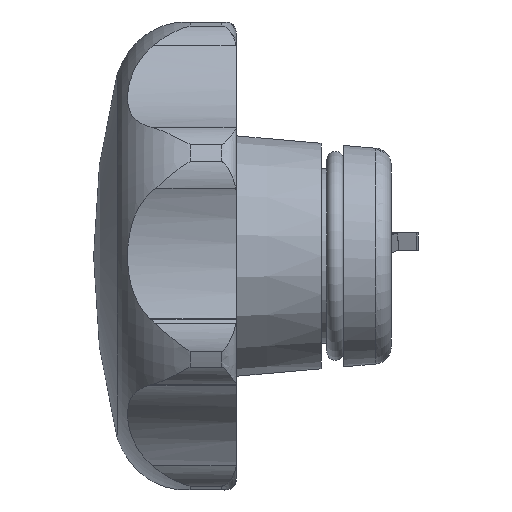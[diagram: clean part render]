
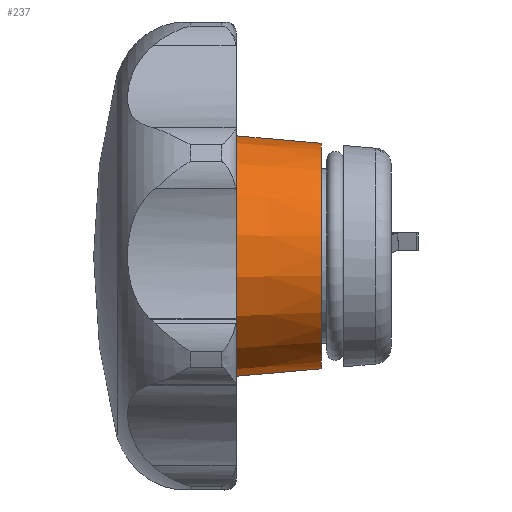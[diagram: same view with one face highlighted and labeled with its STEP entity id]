
A CAD part, left-side view. The second image highlights one B-rep face of the part: STEP entity #237.
In plain terms, the highlighted conical face has half-angle 5 degrees and reference radius 10.661 mm.
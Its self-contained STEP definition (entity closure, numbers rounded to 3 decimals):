
#237 = ADVANCED_FACE( '', ( #487, #488 ), #489, .T. );
#487 = FACE_BOUND( '', #859, .T. );
#488 = FACE_OUTER_BOUND( '', #860, .T. );
#489 = CONICAL_SURFACE( '', #861, 10.661, 0.087 );
#859 = EDGE_LOOP( '', ( #1609 ) );
#860 = EDGE_LOOP( '', ( #1610 ) );
#861 = AXIS2_PLACEMENT_3D( '', #1611, #1612, #1613 );
#1609 = ORIENTED_EDGE( '', *, *, #2540, .F. );
#1610 = ORIENTED_EDGE( '', *, *, #2539, .T. );
#1611 = CARTESIAN_POINT( '', ( 0., 19.465, 0. ) );
#1612 = DIRECTION( '', ( 0., 1., 0. ) );
#1613 = DIRECTION( '', ( 0., 0., 1. ) );
#2539 = EDGE_CURVE( '', #3108, #3108, #3109, .T. );
#2540 = EDGE_CURVE( '', #3110, #3110, #3111, .T. );
#3108 = VERTEX_POINT( '', #4765 );
#3109 = CIRCLE( '', #4766, 10.661 );
#3110 = VERTEX_POINT( '', #4767 );
#3111 = CIRCLE( '', #4768, 9.474 );
#4765 = CARTESIAN_POINT( '', ( 0., 19.465, -10.661 ) );
#4766 = AXIS2_PLACEMENT_3D( '', #5368, #5369, #5370 );
#4767 = CARTESIAN_POINT( '', ( 0., 5.9, -9.474 ) );
#4768 = AXIS2_PLACEMENT_3D( '', #5371, #5372, #5373 );
#5368 = CARTESIAN_POINT( '', ( 0., 19.465, 0. ) );
#5369 = DIRECTION( '', ( 0., -1., 0. ) );
#5370 = DIRECTION( '', ( 0., 0., -1. ) );
#5371 = CARTESIAN_POINT( '', ( 0., 5.9, 0. ) );
#5372 = DIRECTION( '', ( 0., -1., 0. ) );
#5373 = DIRECTION( '', ( 0., 0., -1. ) );
